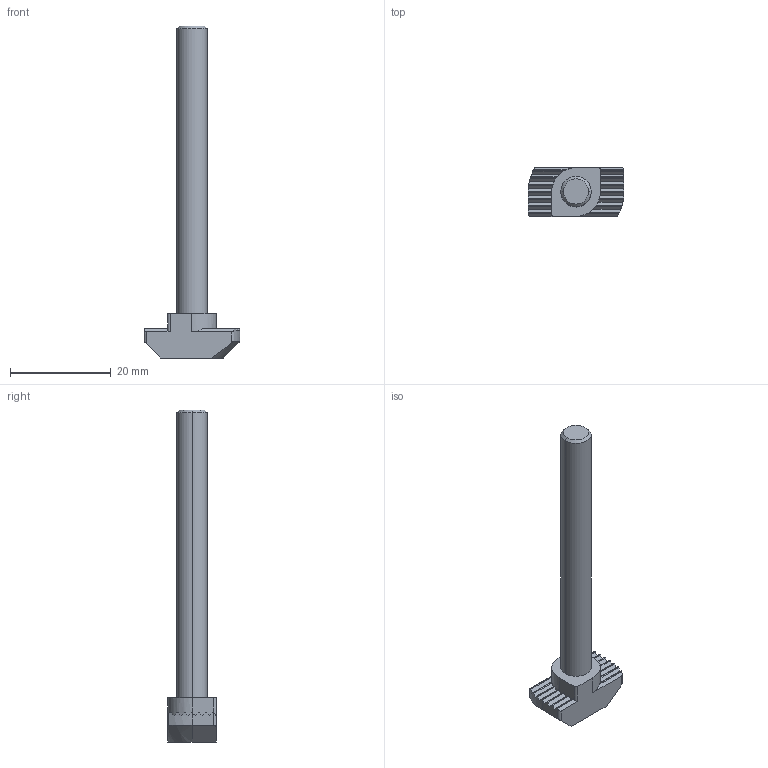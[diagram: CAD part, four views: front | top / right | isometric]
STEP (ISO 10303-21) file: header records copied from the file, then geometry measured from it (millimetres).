
FILE_DESCRIPTION(('STEP AP214'),'1');
FILE_NAME('fath_096hk1030m0660.stp','2017-04-24T02:20:15',('TraceParts'),('TraceParts S.A.'),'Spatial InterOp 3D',' ',' ');
FILE_SCHEMA(('automotive_design'));
Length unit declared in the file: millimetre
Products named in the file (1): fath_096hk1030m0660
Bounding box: 19 x 9.7 x 65.81 mm (x, y, z)
Volume: 2769 mm3; surface area: 1808.9 mm2
Topology: 1 solids, 1 shells, 83 faces, 236 edges, 156 vertices
Faces by surface type: cylinder 40, plane 39, cone 4
Entity records: 3466 total; most frequent: CARTESIAN_POINT 758, ORIENTED_EDGE 472, DIRECTION 372, EDGE_CURVE 236, VERTEX_POINT 156, AXIS2_PLACEMENT_3D 126, LINE 120, VECTOR 120
